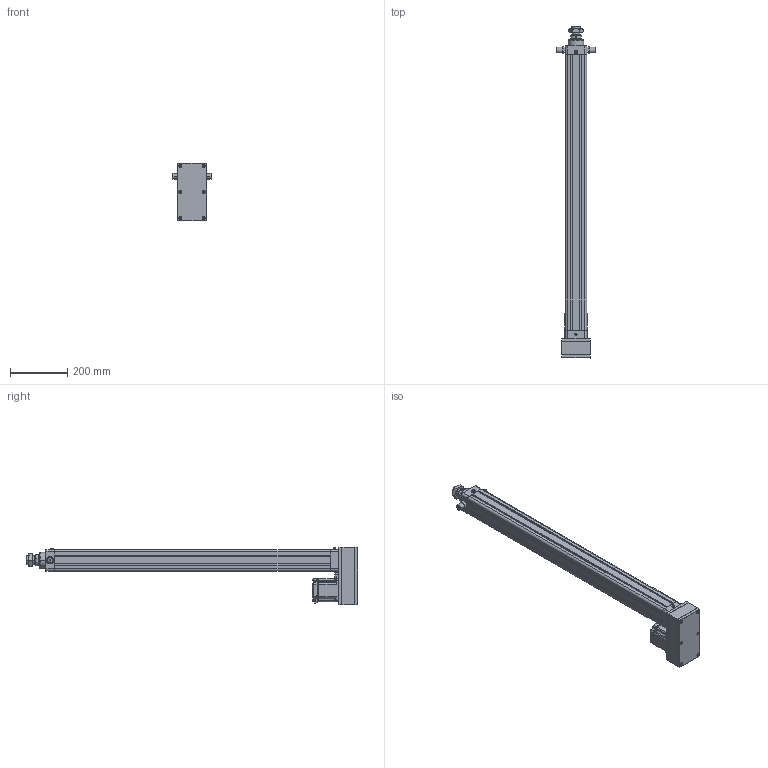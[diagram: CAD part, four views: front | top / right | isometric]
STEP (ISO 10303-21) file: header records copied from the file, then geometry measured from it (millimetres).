
FILE_DESCRIPTION((''),'2;1');
FILE_NAME('HE63-D-100-X1_ASM','2020-05-15T',('ASUS20200'),(''),'CREO PARAMETRIC BY PTC INC, 2014190','CREO PARAMETRIC BY PTC INC, 2014190','');
FILE_SCHEMA(('CONFIG_CONTROL_DESIGN'));
Length unit declared in the file: millimetre
Products named in the file (24): HE63-D-P-001-X1; HE63-D-P-002-X1; HE63-D-P-003-X1; LGLM-M8-22; SLM-01; YZ-M6X1; JDB405030; HE63-P-010-X1-80N; _MHMF082L1A2; MHMF082L1A2M2_1_ASM; JX6X6X25; HE63-P-012-X1; HE63-P-013-X1; M6X60; JM-M8; LM-M8-15; LM-M8X1-25; HE63-D-P-005-X1; HE63-D-P-004-X1; HE63-D-P-008-X1; TD-6; M6X25; HE63-TC; HE63-D-100-X1_ASM
Assembly tree (42 placements, depth 3):
  HE63-D-100-X1_ASM
    HE63-D-P-001-X1
    HE63-D-P-002-X1
    HE63-D-P-003-X1
    LGLM-M8-22  x8
    SLM-01
    YZ-M6X1
    JDB405030
    HE63-P-010-X1-80N
    MHMF082L1A2M2_1_ASM
      _MHMF082L1A2
    JX6X6X25
    HE63-P-012-X1
    HE63-P-013-X1
    M6X60  x6
    JM-M8
    LM-M8-15
    LM-M8X1-25
    HE63-D-P-005-X1
    HE63-D-P-004-X1
    HE63-D-P-008-X1
    TD-6  x4
    M6X25  x4
    HE63-TC  x2
Bounding box: 135 x 1157 x 200.5 mm (x, y, z)
Volume: 3516304 mm3; surface area: 1038693.1 mm2
Topology: 41 solids, 73 shells, 2189 faces, 5269 edges, 3258 vertices
Faces by surface type: plane 810, cylinder 685, cone 559, torus 102, sphere 30, bspline 3
Entity records: 51649 total; most frequent: CARTESIAN_POINT 10057, DIRECTION 9247, ORIENTED_EDGE 8082, EDGE_CURVE 4101, AXIS2_PLACEMENT_3D 3583, VERTEX_POINT 2552, VECTOR 2081, LINE 2081
